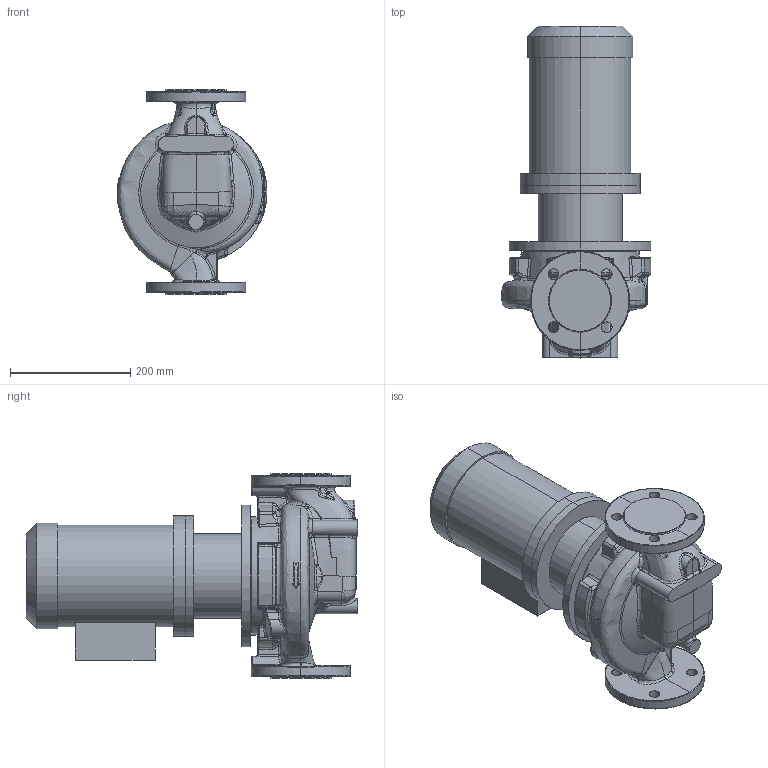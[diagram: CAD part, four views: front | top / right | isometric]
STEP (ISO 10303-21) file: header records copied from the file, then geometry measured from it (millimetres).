
FILE_DESCRIPTION (( 'STEP AP214' ), '1' );
FILE_NAME ('KRL 50-160-4-1,1 18.03.26.STEP', '2026-03-18T12:49:30', ( '' ), ( '' ), 'SwSTEP 2.0', 'SolidWorks 2016', '' );
FILE_SCHEMA (( 'AUTOMOTIVE_DESIGN' ));
Length unit declared in the file: millimetre
Products named in the file (1): KRL 50-160-4-1,1 18.03.26
Bounding box: 249.63 x 552.3 x 340 mm (x, y, z)
Volume: 16022199.1 mm3; surface area: 801895.7 mm2
Topology: 4 solids, 4 shells, 747 faces, 1830 edges, 1064 vertices
Faces by surface type: bspline 488, cylinder 129, plane 93, cone 37
Entity records: 95855 total; most frequent: CARTESIAN_POINT 81343, ORIENTED_EDGE 3568, EDGE_CURVE 1784, DIRECTION 1725, VERTEX_POINT 1061, B_SPLINE_CURVE_WITH_KNOTS 973, EDGE_LOOP 777, FACE_OUTER_BOUND 746
